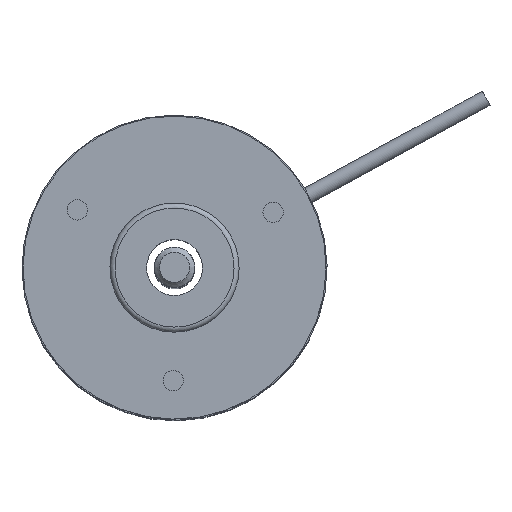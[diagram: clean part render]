
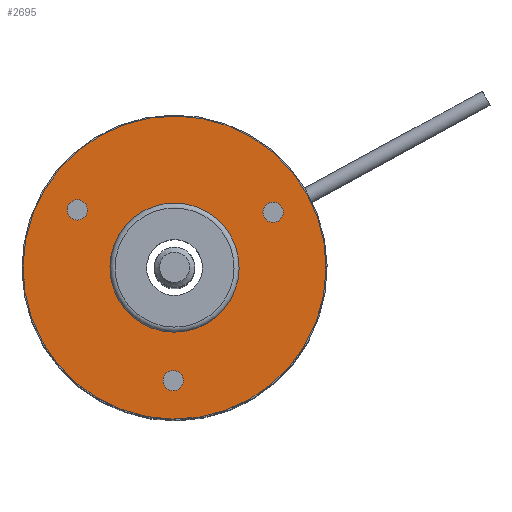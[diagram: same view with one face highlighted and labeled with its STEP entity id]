
A CAD part, top view. The second image highlights one B-rep face of the part: STEP entity #2695.
In plain terms, the highlighted planar face has unit normal (0, 0, 1) as drawn and (-1, 0, 0) by its records, which use the part's own axes.
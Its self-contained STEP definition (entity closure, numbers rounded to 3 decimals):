
#2511=CARTESIAN_POINT('',(1.57,-8.758,-6.056));
#2512=VERTEX_POINT('',#2511);
#2513=CARTESIAN_POINT('',(1.57,-9.624,-5.556));
#2514=DIRECTION('',(1.0,0.0,0.0));
#2515=DIRECTION('',(0.0,0.866,-0.5));
#2516=AXIS2_PLACEMENT_3D('',#2513,#2514,#2515);
#2517=CIRCLE('',#2516,1.);
#2518=EDGE_CURVE('',#2512,#2512,#2517,.T.);
#2539=CARTESIAN_POINT('',(1.57,-0.866,10.613));
#2540=VERTEX_POINT('',#2539);
#2541=CARTESIAN_POINT('',(1.57,0.,11.113));
#2542=DIRECTION('',(1.,0.0,0.0));
#2543=DIRECTION('',(0.0,-0.866,-0.5));
#2544=AXIS2_PLACEMENT_3D('',#2541,#2542,#2543);
#2545=CIRCLE('',#2544,1.0);
#2546=EDGE_CURVE('',#2540,#2540,#2545,.T.);
#2567=CARTESIAN_POINT('',(1.57,9.624,-4.556));
#2568=VERTEX_POINT('',#2567);
#2569=CARTESIAN_POINT('',(1.57,9.624,-5.556));
#2570=DIRECTION('',(1.0,0.0,0.0));
#2571=DIRECTION('',(0.0,0.0,1.0));
#2572=AXIS2_PLACEMENT_3D('',#2569,#2570,#2571);
#2573=CIRCLE('',#2572,1.0);
#2574=EDGE_CURVE('',#2568,#2568,#2573,.T.);
#2632=CARTESIAN_POINT('',(1.57,6.35,0.0));
#2633=VERTEX_POINT('',#2632);
#2634=CARTESIAN_POINT('',(1.57,0.0,0.0));
#2635=DIRECTION('',(1.0,0.0,0.0));
#2636=DIRECTION('',(0.0,1.0,0.0));
#2637=AXIS2_PLACEMENT_3D('',#2634,#2635,#2636);
#2638=CIRCLE('',#2637,6.35);
#2639=EDGE_CURVE('',#2633,#2633,#2638,.T.);
#2667=CARTESIAN_POINT('',(1.57,10.625,0.0));
#2668=DIRECTION('',(-1.0,0.0,0.0));
#2669=DIRECTION('',(0.0,0.0,1.0));
#2670=AXIS2_PLACEMENT_3D('',#2667,#2668,#2669);
#2671=PLANE('',#2670);
#2672=CARTESIAN_POINT('',(1.57,14.9,0.0));
#2673=VERTEX_POINT('',#2672);
#2674=CARTESIAN_POINT('',(1.57,0.0,0.0));
#2675=DIRECTION('',(1.0,0.0,0.0));
#2676=DIRECTION('',(0.0,1.0,0.0));
#2677=AXIS2_PLACEMENT_3D('',#2674,#2675,#2676);
#2678=CIRCLE('',#2677,14.9);
#2679=EDGE_CURVE('',#2673,#2673,#2678,.T.);
#2680=ORIENTED_EDGE('',*,*,#2679,.F.);
#2681=EDGE_LOOP('',(#2680));
#2682=FACE_OUTER_BOUND('',#2681,.T.);
#2683=ORIENTED_EDGE('',*,*,#2518,.T.);
#2684=EDGE_LOOP('',(#2683));
#2685=FACE_BOUND('',#2684,.T.);
#2686=ORIENTED_EDGE('',*,*,#2546,.T.);
#2687=EDGE_LOOP('',(#2686));
#2688=FACE_BOUND('',#2687,.T.);
#2689=ORIENTED_EDGE('',*,*,#2574,.T.);
#2690=EDGE_LOOP('',(#2689));
#2691=FACE_BOUND('',#2690,.T.);
#2692=ORIENTED_EDGE('',*,*,#2639,.T.);
#2693=EDGE_LOOP('',(#2692));
#2694=FACE_BOUND('',#2693,.T.);
#2695=ADVANCED_FACE('',(#2682,#2685,#2688,#2691,#2694),#2671,.T.);
